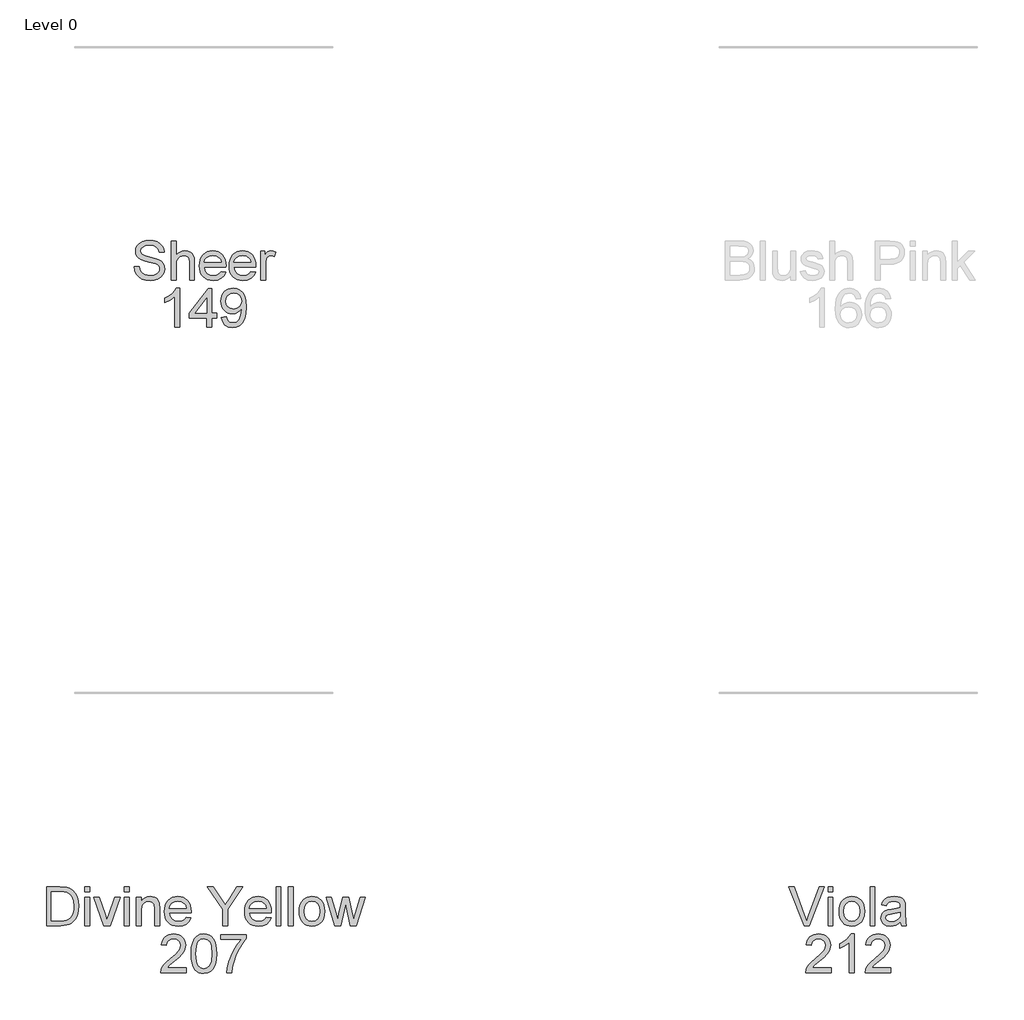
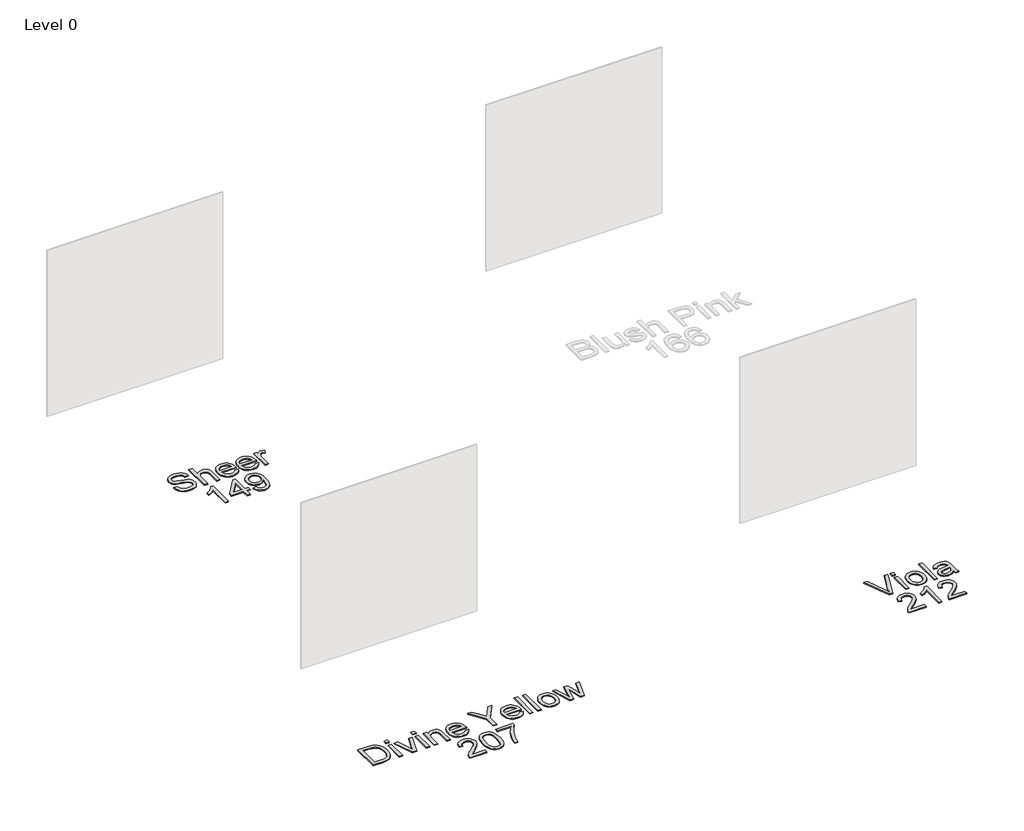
# One storey, part 4 of 15: 3 proxies.
"""IFC4 building model written with IfcOpenShell, lengths in millimetres."""

from ifc_helpers import new_model, si_unit, origin, origin_with_axes, place, context, project, spatial, polyline, outline, extrude, element, save

model = new_model("IFC4")

# Units and contexts
model_context = context("Model", 3, world=origin())
ifc_project = project(units=[si_unit("LENGTHUNIT", "METRE", prefix="MILLI")], contexts=[model_context])

# Site, building, storey
site = spatial("IfcSite", under=ifc_project)
building = spatial("IfcBuilding", under=site)
storey = spatial("IfcBuildingStorey", under=building, Name="Level 0", Elevation=0.0)

# Proxies
placement = place(None, origin())
element("IfcBuildingElementProxy", 1, Name="300mm Arial", ObjectType="300mm Arial", at=placement, inside=storey, context=model_context, shape_type="SweptSolid", body=[
    extrude(outline(polyline([(-9987.4714637, -16899.2649241), (-9949.8003474, -16899.2649241), (-9945.4777339, -16920.1698185), (-9937.6602415, -16936.9728286), (-9925.4649534, -16950.308551), (-9908.0089527, -16960.8115819), (-9886.671797, -16967.6265959), (-9862.8330437, -16969.8982672), (-9841.8453759, -16968.1784189), (-9823.4696702, -16963.0188739), (-9808.5796465, -16954.8518936), (-9798.0490244, -16944.1097394), (-9791.7858334, -16931.7764955), (-9789.6981031, -16918.8362463), (-9791.2616015, -16906.2270909), (-9795.952097, -16895.3285868), (-9805.4802407, -16886.0303694), (-9821.5566838, -16878.222074), (-9876.4078893, -16863.837888), (-9912.4143396, -16854.3189414), (-9935.4529496, -16845.2598472), (-9954.2057343, -16832.5863125), (-9967.4954713, -16817.2272392), (-9975.4141313, -16799.5137211), (-9978.0536846, -16779.7768521), (-9974.7887319, -16757.7131294), (-9964.9938738, -16737.1393289), (-9948.9266276, -16719.7017223), (-9926.8445109, -16707.0465817), (-9900.3386131, -16699.3486509), (-9871.000024, -16696.782674), (-9839.2150196, -16699.4682126), (-9811.4031408, -16707.5248283), (-9788.5576689, -16720.7869742), (-9771.6718853, -16739.0891034), (-9760.9849133, -16761.2907818), (-9756.7358763, -16786.2515752), (-9794.4069926, -16786.2515752), (-9801.3231741, -16763.7739853), (-9815.7441483, -16747.5503893), (-9838.2769205, -16737.7279401), (-9869.528496, -16734.4537903), (-9901.5158355, -16737.6911519), (-9923.4599965, -16747.4032365), (-9936.1519253, -16761.695452), (-9940.3825683, -16778.6732061), (-9937.38433, -16793.1493626), (-9928.3896152, -16804.7928278), (-9907.1260359, -16815.2038882), (-9866.8797457, -16825.8356779), (-9825.3458684, -16835.9340387), (-9800.2195281, -16844.7448125), (-9778.7444167, -16858.4116286), (-9763.7624224, -16875.2790181), (-9754.9608457, -16895.1630399), (-9752.0269868, -16917.8797531), (-9755.4023041, -16941.102304), (-9765.528256, -16962.9452975), (-9781.9909753, -16981.7440675), (-9804.3765947, -16995.8339479), (-9831.2963597, -17004.6355246), (-9861.3615157, -17007.5693835), (-9898.2692769, -17004.4055984), (-9928.6471326, -16994.9142429), (-9952.8445709, -16979.0585289), (-9971.2110795, -16956.8016682), (-9983.0016974, -16929.6887651), (-9987.4714637, -16899.2649241)])), origin_with_axes(), (0.0, 0.0, 1.0), 10.0),
    extrude(outline(polyline([(-9700.2292018, -17002.860494), (-9700.2292018, -16701.4915635), (-9662.5580855, -16701.4915635), (-9662.5580855, -16812.2976205), (-9648.721124, -16796.7821973), (-9633.1827082, -16785.6997522), (-9615.9428382, -16779.0502852), (-9597.001514, -16776.8337961), (-9574.2480126, -16779.2526203), (-9554.6950845, -16786.5090926), (-9539.299223, -16798.0329961), (-9529.0169213, -16813.2541137), (-9523.2227799, -16834.1682051), (-9521.2913994, -16862.7710302), (-9521.2913994, -17002.860494), (-9558.9625157, -17002.860494), (-9558.9625157, -16866.6705794), (-9561.9607539, -16843.0893435), (-9570.9554687, -16826.9393239), (-9585.4500193, -16817.6135153), (-9604.9477651, -16814.5049125), (-9620.8678584, -16816.6018398), (-9635.8130645, -16822.8926219), (-9648.1922936, -16832.7702535), (-9656.4144562, -16845.6277292), (-9661.0221782, -16862.7158479), (-9662.5580855, -16885.2854083), (-9662.5580855, -17002.860494), (-9700.2292018, -17002.860494)])), origin_with_axes(), (0.0, 0.0, 1.0), 10.0),
    extrude(outline(polyline([(-9314.5417181, -16936.9360404), (-9277.6063658, -16941.64493), (-9290.914497, -16969.4752029), (-9312.1504851, -16990.2789297), (-9340.8360837, -17003.2467701), (-9376.4930461, -17007.5693835), (-9399.8673483, -17005.7046817), (-9420.6940678, -17000.1105761), (-9438.9732044, -16990.7870668), (-9454.7047583, -16977.7341537), (-9467.3553004, -16961.3151204), (-9476.3914019, -16941.8932503), (-9481.8130628, -16919.4685435), (-9483.6202831, -16894.0409998), (-9481.7946687, -16867.7512327), (-9476.3178255, -16844.5792656), (-9467.1897535, -16824.5250983), (-9454.4104527, -16807.5887309), (-9438.7202856, -16794.133447), (-9420.8596147, -16784.5225298), (-9400.8284401, -16778.7559796), (-9378.6267617, -16776.8337961), (-9357.1401539, -16778.751381), (-9337.7090867, -16784.5041357), (-9320.3335603, -16794.0920602), (-9305.0135744, -16807.5151545), (-9292.5078858, -16824.4147337), (-9283.5752511, -16844.4321128), (-9278.2156703, -16867.5672917), (-9276.4291434, -16893.8202706), (-9276.6498726, -16903.9738137), (-9445.9491668, -16903.9738137), (-9439.4284584, -16932.1719686), (-9424.2809173, -16952.902119), (-9402.4195297, -16965.6492302), (-9375.7572821, -16969.8982672), (-9355.7077134, -16967.9300985), (-9338.8219298, -16962.0255925), (-9325.0999314, -16951.8168672), (-9314.5417181, -16936.9360404)]), holes=[polyline([(-9445.9491668, -16866.3026974), (-9314.1002597, -16866.3026974), (-9319.1954253, -16846.4002814), (-9329.1834215, -16832.1632482), (-9351.1459766, -16818.9194964), (-9378.7739144, -16814.5049125), (-9404.1669692, -16818.0273826), (-9425.163834, -16828.5947929), (-9439.7595522, -16845.0667092), (-9445.9491668, -16866.3026974)])]), origin_with_axes(), (0.0, 0.0, 1.0), 10.0),
    extrude(outline(polyline([(-9083.8061307, -16936.9360404), (-9046.8707784, -16941.64493), (-9060.1789096, -16969.4752029), (-9081.4148977, -16990.2789297), (-9110.1004963, -17003.2467701), (-9145.7574587, -17007.5693835), (-9169.131761, -17005.7046817), (-9189.9584804, -17000.1105761), (-9208.2376171, -16990.7870668), (-9223.9691709, -16977.7341537), (-9236.619713, -16961.3151204), (-9245.6558145, -16941.8932503), (-9251.0774754, -16919.4685435), (-9252.8846957, -16894.0409998), (-9251.0590813, -16867.7512327), (-9245.5822381, -16844.5792656), (-9236.4541661, -16824.5250983), (-9223.6748653, -16807.5887309), (-9207.9846982, -16794.133447), (-9190.1240273, -16784.5225298), (-9170.0928527, -16778.7559796), (-9147.8911743, -16776.8337961), (-9126.4045665, -16778.751381), (-9106.9734994, -16784.5041357), (-9089.5979729, -16794.0920602), (-9074.277987, -16807.5151545), (-9061.7722985, -16824.4147337), (-9052.8396638, -16844.4321128), (-9047.480083, -16867.5672917), (-9045.693556, -16893.8202706), (-9045.9142852, -16903.9738137), (-9215.2135794, -16903.9738137), (-9208.692871, -16932.1719686), (-9193.5453299, -16952.902119), (-9171.6839423, -16965.6492302), (-9145.0216947, -16969.8982672), (-9124.972126, -16967.9300985), (-9108.0863424, -16962.0255925), (-9094.364344, -16951.8168672), (-9083.8061307, -16936.9360404)]), holes=[polyline([(-9215.2135794, -16866.3026974), (-9083.3646723, -16866.3026974), (-9088.459838, -16846.4002814), (-9098.4478341, -16832.1632482), (-9120.4103892, -16818.9194964), (-9148.0383271, -16814.5049125), (-9173.4313818, -16818.0273826), (-9194.4282467, -16828.5947929), (-9209.0239648, -16845.0667092), (-9215.2135794, -16866.3026974)])]), origin_with_axes(), (0.0, 0.0, 1.0), 10.0),
    extrude(outline(polyline([(-9008.0224397, -17002.860494), (-9008.0224397, -16781.5426857), (-8975.0602129, -16781.5426857), (-8975.0602129, -16814.2841833), (-8962.8833189, -16795.3014723), (-8951.662918, -16784.1178596), (-8940.405729, -16778.654812), (-8928.1184704, -16776.8337961), (-8909.3564886, -16779.7400639), (-8890.3002013, -16788.4588672), (-8902.8817655, -16822.2304343), (-8916.1255173, -16816.4362929), (-8929.3692691, -16814.5049125), (-8940.6172611, -16816.3627165), (-8950.6696367, -16821.9361288), (-8958.7906317, -16830.8020848), (-8964.2444823, -16842.5375205), (-8968.8246131, -16863.5803706), (-8970.3513234, -16886.5362071), (-8970.3513234, -17002.860494), (-9008.0224397, -17002.860494)])), origin_with_axes(), (0.0, 0.0, 1.0), 10.0),
    extrude(outline(polyline([(-9636.6591931, -17368.7849475), (-9674.3303094, -17368.7849475), (-9674.3303094, -17133.9290818), (-9710.0148629, -17159.3497277), (-9749.672542, -17178.3692268), (-9749.672542, -17142.7582497), (-9720.0856325, -17126.6634124), (-9694.4534545, -17107.5151545), (-9674.2475359, -17087.1528861), (-9660.9394048, -17067.4160171), (-9636.6591931, -17067.4160171), (-9636.6591931, -17368.7849475)])), origin_with_axes(), (0.0, 0.0, 1.0), 10.0),
    extrude(outline(polyline([(-9424.7591638, -17368.7849475), (-9424.7591638, -17298.1516044), (-9561.3169605, -17298.1516044), (-9561.3169605, -17260.4804881), (-9415.3413848, -17072.1249066), (-9387.0880475, -17072.1249066), (-9387.0880475, -17260.4804881), (-9349.4169312, -17260.4804881), (-9349.4169312, -17298.1516044), (-9387.0880475, -17298.1516044), (-9387.0880475, -17368.7849475), (-9424.7591638, -17368.7849475)]), holes=[polyline([(-9424.7591638, -17260.4804881), (-9424.7591638, -17144.0826249), (-9514.9638291, -17260.4804881), (-9424.7591638, -17260.4804881)])]), origin_with_axes(), (0.0, 0.0, 1.0), 10.0),
    extrude(outline(polyline([(-9311.7458149, -17293.4427149), (-9274.0746986, -17288.7338254), (-9267.6367637, -17310.1169663), (-9257.1521268, -17324.6758963), (-9242.8783054, -17333.0360146), (-9225.0728169, -17335.8227207), (-9209.0975412, -17334.029296), (-9194.5753995, -17328.6490218), (-9182.50887, -17320.2705094), (-9173.9004313, -17309.4823699), (-9161.5763845, -17276.7408723), (-9156.131731, -17233.0364913), (-9156.3524602, -17225.6788514), (-9169.4030739, -17241.6081418), (-9186.4819956, -17254.2264942), (-9206.3568204, -17262.4486568), (-9227.7951436, -17265.1893777), (-9245.6903034, -17263.5155146), (-9262.1461249, -17258.4939254), (-9277.1626081, -17250.12461), (-9290.739753, -17238.4075684), (-9301.9900443, -17223.9544045), (-9310.0259666, -17207.3767221), (-9314.84752, -17188.6745212), (-9316.4547045, -17167.8478018), (-9314.7693451, -17146.326705), (-9309.7132669, -17127.0129003), (-9301.28647, -17109.9063875), (-9289.4889542, -17095.0071667), (-9275.1530527, -17082.9360387), (-9259.1110985, -17074.3138045), (-9241.3630915, -17069.1404639), (-9221.9090317, -17067.4160171), (-9193.8120443, -17071.3523544), (-9168.2350486, -17083.1613665), (-9146.8427106, -17102.254442), (-9131.2996963, -17128.0429699), (-9121.835932, -17163.6907352), (-9118.6813439, -17212.3615232), (-9121.8267349, -17263.96617), (-9131.2629081, -17303.8537754), (-9146.9070899, -17333.8269609), (-9168.676507, -17355.6883485), (-9195.6330602, -17369.0424649), (-9226.8386504, -17373.4938371), (-9259.0467191, -17368.2423216), (-9284.7432765, -17352.4877751), (-9302.7143119, -17327.2234791), (-9311.7458149, -17293.4427149)]), holes=[polyline([(-9156.3524602, -17166.964885), (-9160.4175562, -17141.4338745), (-9172.6128444, -17121.788976), (-9191.540373, -17109.262594), (-9215.8021906, -17105.0871334), (-9240.9653191, -17109.5844908), (-9261.1252524, -17123.0765629), (-9274.3690042, -17143.7239399), (-9278.7835882, -17169.6872117), (-9274.6081275, -17192.964945), (-9262.0817456, -17211.4418182), (-9242.4184529, -17223.4991506), (-9216.8322602, -17227.5182614), (-9192.7635806, -17223.4991506), (-9173.3853965, -17211.4418182), (-9160.6106943, -17192.2843633), (-9156.3524602, -17166.964885)])]), origin_with_axes(), (0.0, 0.0, 1.0), 10.0),
])
element("IfcBuildingElementProxy", 2, Name="300mm Arial", ObjectType="300mm Arial", at=placement, inside=storey, context=model_context, shape_type="SweptSolid", body=[
    extrude(outline(polyline([(-10667.9060019, -22011.9454346), (-10667.9060019, -21710.5765041), (-10563.9425501, -21710.5765041), (-10510.1582024, -21714.9175116), (-10486.1355081, -21723.286827), (-10465.8652102, -21736.4753966), (-10445.0246952, -21759.4312331), (-10430.1806567, -21787.9788759), (-10421.2963065, -21821.566502), (-10418.3348564, -21859.6422885), (-10420.3398133, -21891.988313), (-10426.3546839, -21920.4531824), (-10435.5149456, -21944.6874088), (-10446.9560756, -21964.3415044), (-10460.1262511, -21979.8569275), (-10474.4736489, -21991.6751366), (-10490.9455652, -22000.4399252), (-10510.4892962, -22006.7950866), (-10558.939355, -22011.9454346), (-10667.9060019, -22011.9454346)]), holes=[polyline([(-10630.2348856, -21974.2743182), (-10563.5746681, -21974.2743182), (-10536.0019126, -21972.9131549), (-10515.0878212, -21968.8296647), (-10499.3056836, -21962.2629711), (-10487.1287895, -21953.4521973), (-10474.0413875, -21937.1458279), (-10464.2097412, -21916.0385984), (-10458.0569148, -21890.0385384), (-10456.0059727, -21859.0536774), (-10460.0250835, -21817.9980467), (-10472.0824159, -21787.6845703), (-10489.8971015, -21766.8624494), (-10511.188272, -21754.2808851), (-10532.8565215, -21749.7559366), (-10564.6047377, -21748.2476204), (-10630.2348856, -21748.2476204), (-10630.2348856, -21974.2743182)])]), origin_with_axes(), (0.0, 0.0, 1.0), 10.0),
    extrude(outline(polyline([(-10371.245961, -21748.2476204), (-10371.245961, -21710.5765041), (-10333.5748447, -21710.5765041), (-10333.5748447, -21748.2476204), (-10371.245961, -21748.2476204)])), origin_with_axes(), (0.0, 0.0, 1.0), 10.0),
    extrude(outline(polyline([(-10371.245961, -22011.9454346), (-10371.245961, -21790.6276263), (-10333.5748447, -21790.6276263), (-10333.5748447, -22011.9454346), (-10371.245961, -22011.9454346)])), origin_with_axes(), (0.0, 0.0, 1.0), 10.0),
    extrude(outline(polyline([(-10222.7687878, -22011.9454346), (-10300.612618, -21790.6276263), (-10260.7342097, -21790.6276263), (-10213.5717379, -21923.2122973), (-10199.3714929, -21967.7995951), (-10185.4655535, -21925.7138949), (-10138.0087761, -21790.6276263), (-10098.1303678, -21790.6276263), (-10175.0177048, -22011.9454346), (-10222.7687878, -22011.9454346)])), origin_with_axes(), (0.0, 0.0, 1.0), 10.0),
    extrude(outline(polyline([(-10065.1681411, -22011.9454346), (-10065.1681411, -21790.6276263), (-10027.4970247, -21790.6276263), (-10027.4970247, -22011.9454346), (-10065.1681411, -22011.9454346)])), origin_with_axes(), (0.0, 0.0, 1.0), 10.0),
    extrude(outline(polyline([(-10065.1681411, -21748.2476204), (-10065.1681411, -21710.5765041), (-10027.4970247, -21710.5765041), (-10027.4970247, -21748.2476204), (-10065.1681411, -21748.2476204)])), origin_with_axes(), (0.0, 0.0, 1.0), 10.0),
    extrude(outline(polyline([(-9970.9903503, -22011.9454346), (-9970.9903503, -21790.6276263), (-9933.319234, -21790.6276263), (-9933.319234, -21821.5297138), (-9920.231832, -21805.9499114), (-9904.5140738, -21794.821481), (-9886.1659592, -21788.1444228), (-9865.1874885, -21785.9187367), (-9846.6186448, -21787.7121614), (-9829.6132995, -21793.0924356), (-9815.4314486, -21801.3881746), (-9805.3330879, -21811.9279938), (-9794.0391106, -21839.629508), (-9792.0525478, -21876.0498255), (-9792.0525478, -22011.9454346), (-9829.7236641, -22011.9454346), (-9829.7236641, -21881.1265971), (-9834.0646717, -21847.7964883), (-9840.0703453, -21837.8728715), (-9849.4053509, -21830.1749407), (-9861.3707128, -21825.2361249), (-9875.2674551, -21823.589853), (-9897.3311778, -21827.2870671), (-9916.1391448, -21838.3787092), (-9923.6554338, -21847.4332048), (-9929.0242117, -21859.8078354), (-9933.319234, -21894.5175017), (-9933.319234, -22011.9454346), (-9970.9903503, -22011.9454346)])), origin_with_axes(), (0.0, 0.0, 1.0), 10.0),
    extrude(outline(polyline([(-9585.3028665, -21946.020981), (-9548.3675142, -21950.7298706), (-9561.6756454, -21978.5601435), (-9582.9116336, -21999.3638703), (-9611.5972321, -22012.3317106), (-9647.2541945, -22016.6543241), (-9670.6284968, -22014.7896222), (-9691.4552163, -22009.1955166), (-9709.7343529, -21999.8720073), (-9725.4659067, -21986.8190943), (-9738.1164488, -21970.400061), (-9747.1525503, -21950.9781909), (-9752.5742112, -21928.553484), (-9754.3814315, -21903.1259404), (-9752.5558171, -21876.8361733), (-9747.0789739, -21853.6642061), (-9737.9509019, -21833.6100389), (-9725.1716011, -21816.6736715), (-9709.481434, -21803.2183875), (-9691.6207631, -21793.6074704), (-9671.5895885, -21787.8409201), (-9649.3879101, -21785.9187367), (-9627.9013023, -21787.8363216), (-9608.4702352, -21793.5890763), (-9591.0947087, -21803.1770008), (-9575.7747229, -21816.6000951), (-9563.2690343, -21833.4996743), (-9554.3363996, -21853.5170533), (-9548.9768188, -21876.6522323), (-9547.1902918, -21902.9052112), (-9547.411021, -21913.0587542), (-9716.7103152, -21913.0587542), (-9710.1896069, -21941.2569092), (-9695.0420657, -21961.9870596), (-9673.1806781, -21974.7341707), (-9646.5184305, -21978.9832078), (-9626.4688618, -21977.0150391), (-9609.5830782, -21971.1105331), (-9595.8610798, -21960.9018077), (-9585.3028665, -21946.020981)]), holes=[polyline([(-9716.7103152, -21875.3876379), (-9584.8614081, -21875.3876379), (-9589.9565738, -21855.485222), (-9599.94457, -21841.2481888), (-9621.9071251, -21828.004437), (-9649.5350629, -21823.589853), (-9674.9281176, -21827.1123231), (-9695.9249825, -21837.6797334), (-9710.5207007, -21854.1516498), (-9716.7103152, -21875.3876379)])]), origin_with_axes(), (0.0, 0.0, 1.0), 10.0),
    extrude(outline(polyline([(-9302.3280359, -22011.9454346), (-9302.3280359, -21884.2903822), (-9420.0502743, -21710.5765041), (-9375.6101293, -21710.5765041), (-9312.7758845, -21803.3563433), (-9280.6229981, -21850.6659679), (-9248.3965354, -21799.9718289), (-9191.3748261, -21710.5765041), (-9146.9346811, -21710.5765041), (-9264.6569195, -21884.2903822), (-9264.6569195, -22011.9454346), (-9302.3280359, -22011.9454346)])), origin_with_axes(), (0.0, 0.0, 1.0), 10.0),
    extrude(outline(polyline([(-8963.7294475, -21946.020981), (-8926.7940952, -21950.7298706), (-8940.1022264, -21978.5601435), (-8961.3382145, -21999.3638703), (-8990.0238131, -22012.3317106), (-9025.6807755, -22016.6543241), (-9049.0550777, -22014.7896222), (-9069.8817972, -22009.1955166), (-9088.1609338, -21999.8720073), (-9103.8924877, -21986.8190943), (-9116.5430298, -21970.400061), (-9125.5791313, -21950.9781909), (-9131.0007922, -21928.553484), (-9132.8080125, -21903.1259404), (-9130.9823981, -21876.8361733), (-9125.5055549, -21853.6642061), (-9116.3774829, -21833.6100389), (-9103.5981821, -21816.6736715), (-9087.908015, -21803.2183875), (-9070.0473441, -21793.6074704), (-9050.0161695, -21787.8409201), (-9027.8144911, -21785.9187367), (-9006.3278833, -21787.8363216), (-8986.8968161, -21793.5890763), (-8969.5212897, -21803.1770008), (-8954.2013038, -21816.6000951), (-8941.6956152, -21833.4996743), (-8932.7629805, -21853.5170533), (-8927.4033997, -21876.6522323), (-8925.6168728, -21902.9052112), (-8925.837602, -21913.0587542), (-9095.1368962, -21913.0587542), (-9088.6161878, -21941.2569092), (-9073.4686467, -21961.9870596), (-9051.6072591, -21974.7341707), (-9024.9450115, -21978.9832078), (-9004.8954428, -21977.0150391), (-8988.0096592, -21971.1105331), (-8974.2876608, -21960.9018077), (-8963.7294475, -21946.020981)]), holes=[polyline([(-9095.1368962, -21875.3876379), (-8963.2879891, -21875.3876379), (-8968.3831547, -21855.485222), (-8978.3711509, -21841.2481888), (-9000.333706, -21828.004437), (-9027.9616438, -21823.589853), (-9053.3546986, -21827.1123231), (-9074.3515634, -21837.6797334), (-9088.9472816, -21854.1516498), (-9095.1368962, -21875.3876379)])]), origin_with_axes(), (0.0, 0.0, 1.0), 10.0),
    extrude(outline(polyline([(-8887.9457565, -22011.9454346), (-8887.9457565, -21710.5765041), (-8850.2746402, -21710.5765041), (-8850.2746402, -22011.9454346), (-8887.9457565, -22011.9454346)])), origin_with_axes(), (0.0, 0.0, 1.0), 10.0),
    extrude(outline(polyline([(-8793.7679657, -22011.9454346), (-8793.7679657, -21710.5765041), (-8756.0968494, -21710.5765041), (-8756.0968494, -22011.9454346), (-8793.7679657, -22011.9454346)])), origin_with_axes(), (0.0, 0.0, 1.0), 10.0),
    extrude(outline(polyline([(-8709.007954, -21901.2865304), (-8706.9708075, -21872.6239245), (-8700.8593678, -21847.925247), (-8690.6736351, -21827.190498), (-8676.4136093, -21810.4196776), (-8662.0570144, -21799.700516), (-8646.2104975, -21792.0439719), (-8628.8740584, -21787.4500455), (-8610.0476973, -21785.9187367), (-8589.2646639, -21787.7834386), (-8570.4727917, -21793.3775442), (-8553.6720808, -21802.7010535), (-8538.8625313, -21815.7539665), (-8526.7753085, -21832.0948249), (-8518.1415779, -21851.2821702), (-8512.9613395, -21873.3160025), (-8511.2345934, -21898.1963216), (-8514.288014, -21936.253714), (-8523.4482757, -21965.2244212), (-8538.448664, -21986.9202618), (-8559.0224646, -22003.1530549), (-8583.4590261, -22013.2790068), (-8610.0476973, -22016.6543241), (-8631.1342334, -22014.79652), (-8650.1008496, -22009.2231078), (-8666.9475457, -21999.9340874), (-8681.6743218, -21986.9294589), (-8693.6327859, -21970.4299514), (-8702.174546, -21950.6562942), (-8707.299602, -21927.6084872), (-8709.007954, -21901.2865304)]), holes=[polyline([(-8671.3368377, -21901.212954), (-8666.9774361, -21935.3064179), (-8653.8992312, -21959.5958266), (-8634.2175444, -21974.1363625), (-8610.0476973, -21978.9832078), (-8585.9882148, -21974.1087713), (-8566.3433163, -21959.485462), (-8553.2651114, -21934.8741566), (-8548.9057097, -21900.0357316), (-8553.2927025, -21866.9355491), (-8566.4536809, -21842.9772342), (-8586.1261706, -21828.4366983), (-8610.0476973, -21823.589853), (-8634.2175444, -21828.4183042), (-8653.8992312, -21842.9036578), (-8666.9774361, -21867.1378842), (-8671.3368377, -21901.212954)])]), origin_with_axes(), (0.0, 0.0, 1.0), 10.0),
    extrude(outline(polyline([(-8432.1399645, -22011.9454346), (-8499.4623696, -21790.6276263), (-8460.3197253, -21790.6276263), (-8422.1335742, -21919.7542066), (-8410.7292323, -21965.8866088), (-8401.3850297, -21921.4464637), (-8370.9979769, -21790.6276263), (-8326.1163735, -21790.6276263), (-8295.8764734, -21921.0785817), (-8287.5623404, -21961.324872), (-8275.6429637, -21918.8712898), (-8237.3832362, -21790.6276263), (-8198.0934391, -21790.6276263), (-8265.930879, -22011.9454346), (-8311.47467, -22011.9454346), (-8340.3901949, -21882.1566667), (-8348.7779044, -21841.6896472), (-8386.0811387, -22011.9454346), (-8432.1399645, -22011.9454346)])), origin_with_axes(), (0.0, 0.0, 1.0), 10.0),
    extrude(outline(polyline([(-9584.8614081, -22340.1987718), (-9584.8614081, -22377.8698881), (-9782.6347688, -22377.8698881), (-9778.5880668, -22351.8974192), (-9769.2990464, -22331.5995301), (-9755.7058067, -22311.9086464), (-9736.0425141, -22291.2980576), (-9708.5433349, -22268.2410535), (-9667.8923745, -22232.1334357), (-9643.5017982, -22205.4803851), (-9631.30651, -22183.8489238), (-9627.241414, -22162.8060737), (-9631.0765838, -22143.9429244), (-9642.5820932, -22128.2619544), (-9660.2680201, -22117.694544), (-9682.6444425, -22114.1720739), (-9706.1429049, -22117.6117706), (-9724.3990489, -22127.9308606), (-9736.1804698, -22144.3200034), (-9740.2547629, -22165.9698589), (-9777.9258792, -22161.2609693), (-9768.7932087, -22124.8222577), (-9760.2468501, -22110.2863204), (-9749.0471426, -22098.2059954), (-9735.4516036, -22088.7100414), (-9719.7177505, -22081.9272171), (-9681.8351021, -22076.5009576), (-9661.6452783, -22078.0092738), (-9643.6765421, -22082.5342224), (-9627.9288935, -22090.0758033), (-9614.4023324, -22100.6340165), (-9603.5383172, -22113.4271129), (-9595.7783064, -22127.6733432), (-9591.1222999, -22143.3727073), (-9589.5702977, -22160.5252053), (-9591.2441608, -22178.5422261), (-9596.26575, -22196.2465471), (-9605.1776913, -22214.2543707), (-9618.5226107, -22233.1818994), (-9639.7953871, -22255.7790509), (-9672.4908994, -22284.7957433), (-9715.8273984, -22321.0321198), (-9732.8235466, -22340.1987718), (-9584.8614081, -22340.1987718)])), origin_with_axes(), (0.0, 0.0, 1.0), 10.0),
    extrude(outline(polyline([(-9547.1902918, -22229.613444), (-9544.4219798, -22181.3749174), (-9536.1170438, -22142.9036578), (-9522.3582572, -22113.6110539), (-9503.2283934, -22092.9084946), (-9478.5894968, -22080.6028419), (-9448.3036115, -22076.5009576), (-9425.0902576, -22078.9289788), (-9404.3049249, -22086.2130423), (-9386.9225006, -22098.0680396), (-9373.9178721, -22114.2088621), (-9364.0954228, -22134.4975542), (-9356.2595363, -22158.79616), (-9351.1275825, -22189.6522623), (-9349.4169312, -22229.613444), (-9352.1576521, -22277.5760592), (-9360.3798147, -22315.9553483), (-9374.0558279, -22345.2755433), (-9393.1581005, -22366.060876), (-9417.8521794, -22378.4493022), (-9448.3036115, -22382.5787776), (-9469.0521561, -22380.7853529), (-9487.4462558, -22375.4050787), (-9503.4859108, -22366.4379551), (-9517.171121, -22353.883982), (-9530.3045083, -22331.1902614), (-9539.6854991, -22302.9139316), (-9545.3140937, -22269.0549924), (-9547.1902918, -22229.613444)]), holes=[polyline([(-9509.5191755, -22229.5398676), (-9505.1045916, -22288.79646), (-9499.5863617, -22309.0644587), (-9491.8608398, -22323.092259), (-9472.1423648, -22339.4538107), (-9448.3036115, -22344.9076613), (-9424.4648583, -22339.4354166), (-9404.7463833, -22323.0186826), (-9397.0208614, -22308.9678897), (-9391.5026315, -22288.7044895), (-9387.0880475, -22229.5398676), (-9391.3554787, -22171.6168475), (-9396.6897676, -22151.4155274), (-9404.1577721, -22137.054334), (-9423.8394589, -22119.892639), (-9448.7450699, -22114.1720739), (-9472.3263058, -22119.2120573), (-9491.2722286, -22134.3320073), (-9499.2552679, -22149.9669921), (-9504.9574388, -22171.0466304), (-9509.5191755, -22229.5398676)])]), origin_with_axes(), (0.0, 0.0, 1.0), 10.0),
    extrude(outline(polyline([(-9316.4547045, -22118.8809635), (-9316.4547045, -22081.2098472), (-9118.6813439, -22081.2098472), (-9118.6813439, -22111.6704764), (-9146.8703017, -22147.3458329), (-9174.7833481, -22192.7148799), (-9199.4038507, -22243.6389451), (-9217.715177, -22295.979356), (-9226.6914976, -22335.1403943), (-9231.6946928, -22377.8698881), (-9269.3658091, -22377.8698881), (-9265.291516, -22339.0399435), (-9254.3930119, -22292.8891472), (-9236.9646024, -22243.9700389), (-9213.300593, -22196.8351583), (-9185.6726552, -22154.2252262), (-9156.3524602, -22118.8809635), (-9316.4547045, -22118.8809635)])), origin_with_axes(), (0.0, 0.0, 1.0), 10.0),
])
element("IfcBuildingElementProxy", 3, Name="300mm Arial", ObjectType="300mm Arial", at=placement, inside=storey, context=model_context, shape_type="SweptSolid", body=[
    extrude(outline(polyline([(-4792.4940062, -22011.9454346), (-4912.4235367, -21710.5765041), (-4872.10367, -21710.5765041), (-4791.8318186, -21927.7004577), (-4775.5714344, -21976.628763), (-4759.5317795, -21927.7004577), (-4679.0391989, -21710.5765041), (-4638.7193322, -21710.5765041), (-4753.5720911, -22011.9454346), (-4792.4940062, -22011.9454346)])), origin_with_axes(), (0.0, 0.0, 1.0), 10.0),
    extrude(outline(polyline([(-4608.4058558, -22011.9454346), (-4608.4058558, -21790.6276263), (-4570.7347395, -21790.6276263), (-4570.7347395, -22011.9454346), (-4608.4058558, -22011.9454346)])), origin_with_axes(), (0.0, 0.0, 1.0), 10.0),
    extrude(outline(polyline([(-4608.4058558, -21748.2476204), (-4608.4058558, -21710.5765041), (-4570.7347395, -21710.5765041), (-4570.7347395, -21748.2476204), (-4608.4058558, -21748.2476204)])), origin_with_axes(), (0.0, 0.0, 1.0), 10.0),
    extrude(outline(polyline([(-4523.6458442, -21901.2865304), (-4521.6086976, -21872.6239245), (-4515.497258, -21847.925247), (-4505.3115252, -21827.190498), (-4491.0514994, -21810.4196776), (-4476.6949045, -21799.700516), (-4460.8483876, -21792.0439719), (-4443.5119486, -21787.4500455), (-4424.6855874, -21785.9187367), (-4403.902554, -21787.7834386), (-4385.1106818, -21793.3775442), (-4368.3099709, -21802.7010535), (-4353.5004214, -21815.7539665), (-4341.4131986, -21832.0948249), (-4332.779468, -21851.2821702), (-4327.5992297, -21873.3160025), (-4325.8724835, -21898.1963216), (-4328.9259041, -21936.253714), (-4338.0861658, -21965.2244212), (-4353.0865541, -21986.9202618), (-4373.6603547, -22003.1530549), (-4398.0969162, -22013.2790068), (-4424.6855874, -22016.6543241), (-4445.7721236, -22014.79652), (-4464.7387397, -22009.2231078), (-4481.5854358, -21999.9340874), (-4496.3122119, -21986.9294589), (-4508.270676, -21970.4299514), (-4516.8124361, -21950.6562942), (-4521.9374921, -21927.6084872), (-4523.6458442, -21901.2865304)]), holes=[polyline([(-4485.9747278, -21901.212954), (-4481.6153262, -21935.3064179), (-4468.5371213, -21959.5958266), (-4448.8554345, -21974.1363625), (-4424.6855874, -21978.9832078), (-4400.626105, -21974.1087713), (-4380.9812064, -21959.485462), (-4367.9030015, -21934.8741566), (-4363.5435998, -21900.0357316), (-4367.9305926, -21866.9355491), (-4381.091571, -21842.9772342), (-4400.7640607, -21828.4366983), (-4424.6855874, -21823.589853), (-4448.8554345, -21828.4183042), (-4468.5371213, -21842.9036578), (-4481.6153262, -21867.1378842), (-4485.9747278, -21901.212954)])]), origin_with_axes(), (0.0, 0.0, 1.0), 10.0),
    extrude(outline(polyline([(-4283.4924777, -22011.9454346), (-4283.4924777, -21710.5765041), (-4245.8213614, -21710.5765041), (-4245.8213614, -22011.9454346), (-4283.4924777, -22011.9454346)])), origin_with_axes(), (0.0, 0.0, 1.0), 10.0),
    extrude(outline(polyline([(-4048.0480008, -21983.6920973), (-4066.0466274, -21999.124747), (-4084.5786829, -22009.2231078), (-4104.0672316, -22014.79652), (-4124.9353378, -22016.6543241), (-4156.4168395, -22012.1845578), (-4179.6393905, -21998.7752591), (-4193.9591971, -21978.4129907), (-4198.732466, -21953.0843153), (-4196.9298442, -21937.4677246), (-4191.5219789, -21923.2858737), (-4183.1802547, -21911.1457679), (-4172.5760562, -21901.6544124), (-4146.1989171, -21889.2935774), (-4113.6045723, -21883.6281946), (-4075.0873274, -21877.6685063), (-4048.26873, -21870.6787484), (-4048.0480008, -21862.2910389), (-4050.6415689, -21845.4788317), (-4058.422273, -21834.4791601), (-4075.8230914, -21826.3121798), (-4100.0665149, -21823.589853), (-4122.5073166, -21825.4016718), (-4138.1790896, -21830.8371283), (-4148.8660616, -21840.8895038), (-4156.3524602, -21856.5520798), (-4194.0235765, -21851.8431903), (-4187.484474, -21831.2417985), (-4177.7264041, -21815.0549907), (-4163.8388588, -21802.6757616), (-4144.9113301, -21793.4971058), (-4121.7623556, -21787.813329), (-4095.2104726, -21785.9187367), (-4069.7438415, -21787.5925998), (-4049.556317, -21792.614189), (-4034.3351994, -21800.164967), (-4023.7677891, -21809.4263962), (-4016.7596371, -21820.8767233), (-4012.2162945, -21834.9941949), (-4010.3768845, -21867.9564216), (-4010.3768845, -21914.8245878), (-4008.4638981, -21980.2707948), (-4000.9591054, -22011.9454346), (-4038.6302217, -22011.9454346), (-4048.0480008, -21983.6920973)]), holes=[polyline([(-4048.0480008, -21908.3498647), (-4108.8221064, -21919.9013594), (-4141.2325102, -21926.0082005), (-4155.9110018, -21935.9410143), (-4161.0613497, -21950.435565), (-4158.2562495, -21961.6375717), (-4149.8409489, -21970.8162275), (-4135.9993888, -21976.9414627), (-4116.9155103, -21978.9832078), (-4096.6820005, -21976.7299306), (-4078.8029356, -21969.9700989), (-4064.308385, -21960.0096939), (-4054.2284183, -21948.1546966), (-4049.7586521, -21935.9410143), (-4048.26873, -21919.0184426), (-4048.0480008, -21908.3498647)])]), origin_with_axes(), (0.0, 0.0, 1.0), 10.0),
    extrude(outline(polyline([(-4584.8614081, -22340.1987718), (-4584.8614081, -22377.8698881), (-4782.6347688, -22377.8698881), (-4778.5880668, -22351.8974192), (-4769.2990464, -22331.5995301), (-4755.7058067, -22311.9086464), (-4736.0425141, -22291.2980576), (-4708.5433349, -22268.2410535), (-4667.8923745, -22232.1334357), (-4643.5017982, -22205.4803851), (-4631.30651, -22183.8489238), (-4627.241414, -22162.8060737), (-4631.0765838, -22143.9429244), (-4642.5820932, -22128.2619544), (-4660.2680201, -22117.694544), (-4682.6444425, -22114.1720739), (-4706.1429049, -22117.6117706), (-4724.3990489, -22127.9308606), (-4736.1804698, -22144.3200034), (-4740.2547629, -22165.9698589), (-4777.9258792, -22161.2609693), (-4768.7932087, -22124.8222577), (-4760.2468501, -22110.2863204), (-4749.0471426, -22098.2059954), (-4735.4516036, -22088.7100414), (-4719.7177505, -22081.9272171), (-4681.8351021, -22076.5009576), (-4661.6452783, -22078.0092738), (-4643.6765421, -22082.5342224), (-4627.9288935, -22090.0758033), (-4614.4023324, -22100.6340165), (-4603.5383172, -22113.4271129), (-4595.7783064, -22127.6733432), (-4591.1222999, -22143.3727073), (-4589.5702977, -22160.5252053), (-4591.2441608, -22178.5422261), (-4596.26575, -22196.2465471), (-4605.1776913, -22214.2543707), (-4618.5226107, -22233.1818994), (-4639.7953871, -22255.7790509), (-4672.4908994, -22284.7957433), (-4715.8273984, -22321.0321198), (-4732.8235466, -22340.1987718), (-4584.8614081, -22340.1987718)])), origin_with_axes(), (0.0, 0.0, 1.0), 10.0),
    extrude(outline(polyline([(-4405.9236057, -22377.8698881), (-4443.594722, -22377.8698881), (-4443.594722, -22143.0140224), (-4479.2792755, -22168.4346682), (-4518.9369546, -22187.4541674), (-4518.9369546, -22151.8431903), (-4489.3500452, -22135.748353), (-4463.7178671, -22116.6000951), (-4443.5119486, -22096.2378267), (-4430.2038174, -22076.5009576), (-4405.9236057, -22076.5009576), (-4405.9236057, -22377.8698881)])), origin_with_axes(), (0.0, 0.0, 1.0), 10.0),
    extrude(outline(polyline([(-4123.3902334, -22340.1987718), (-4123.3902334, -22377.8698881), (-4321.163594, -22377.8698881), (-4317.1168921, -22351.8974192), (-4307.8278717, -22331.5995301), (-4294.234632, -22311.9086464), (-4274.5713393, -22291.2980576), (-4247.0721602, -22268.2410535), (-4206.4211997, -22232.1334357), (-4182.0306234, -22205.4803851), (-4169.8353353, -22183.8489238), (-4165.7702392, -22162.8060737), (-4169.605409, -22143.9429244), (-4181.1109184, -22128.2619544), (-4198.7968454, -22117.694544), (-4221.1732677, -22114.1720739), (-4244.6717302, -22117.6117706), (-4262.9278742, -22127.9308606), (-4274.7092951, -22144.3200034), (-4278.7835882, -22165.9698589), (-4316.4547045, -22161.2609693), (-4307.3220339, -22124.8222577), (-4298.7756753, -22110.2863204), (-4287.5759678, -22098.2059954), (-4273.9804289, -22088.7100414), (-4258.2465758, -22081.9272171), (-4220.3639273, -22076.5009576), (-4200.1741036, -22078.0092738), (-4182.2053674, -22082.5342224), (-4166.4577187, -22090.0758033), (-4152.9311576, -22100.6340165), (-4142.0671424, -22113.4271129), (-4134.3071316, -22127.6733432), (-4129.6511251, -22143.3727073), (-4128.0991229, -22160.5252053), (-4129.772986, -22178.5422261), (-4134.7945752, -22196.2465471), (-4143.7065166, -22214.2543707), (-4157.051436, -22233.1818994), (-4178.3242123, -22255.7790509), (-4211.0197246, -22284.7957433), (-4254.3562237, -22321.0321198), (-4271.3523719, -22340.1987718), (-4123.3902334, -22340.1987718)])), origin_with_axes(), (0.0, 0.0, 1.0), 10.0),
])

save(model, "model.ifc")
